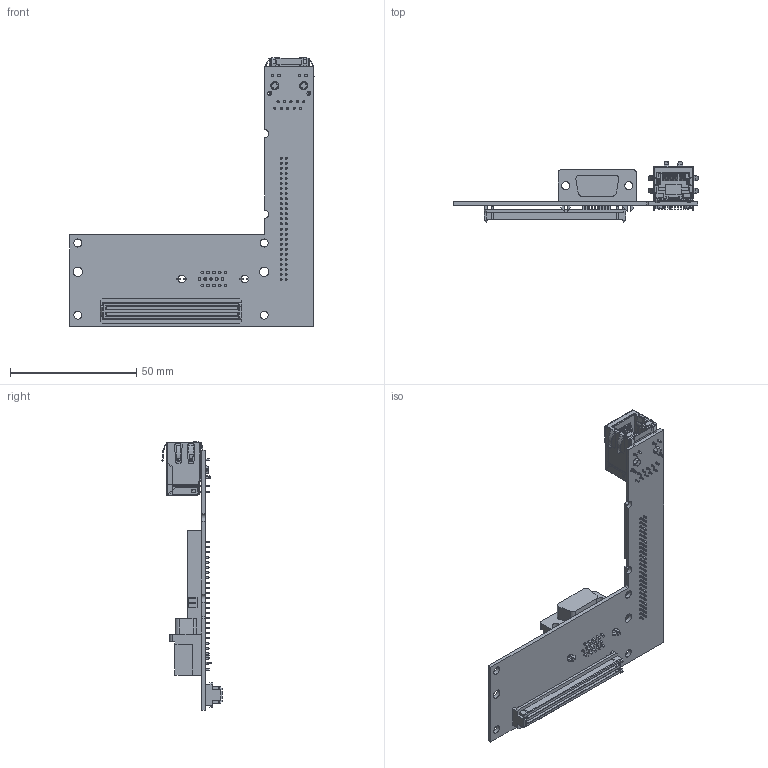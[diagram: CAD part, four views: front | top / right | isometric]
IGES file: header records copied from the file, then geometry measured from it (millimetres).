
Start section:  PTC IGES file: cu_sbrio-9698.igs
Global section: file name: cu_sbrio-9698.igs; native system: Creo Parametric by PTC Inc.; preprocessor: 2015380; author: dkendric; organization: Unknown; date: 20180116.121707; units: inch
Bounding box: 96.67 x 23.84 x 106.32 mm (x, y, z)
Surface area: 21636.8 mm2 (no closed solid volume)
Topology: 0 solids, 0 shells, 2660 faces, 12998 edges, 12996 vertices
Faces by surface type: bspline 1764, revolution 884, extrusion 12
